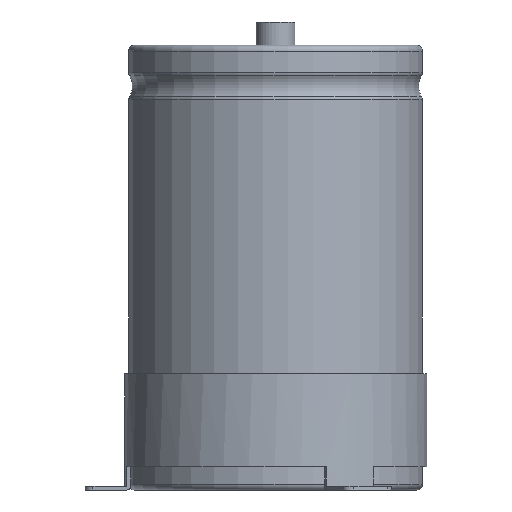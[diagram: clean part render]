
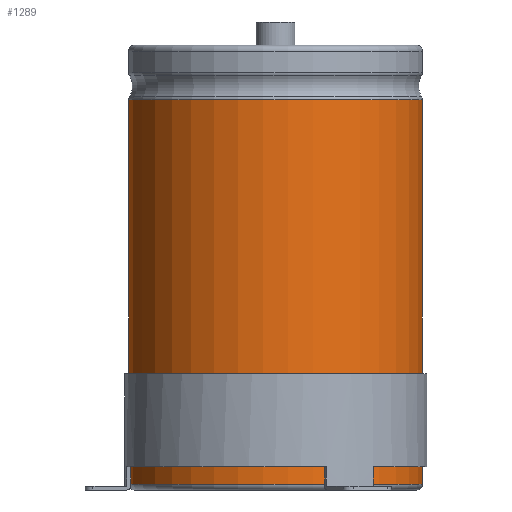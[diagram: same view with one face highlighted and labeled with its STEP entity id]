
A CAD part, front view. The second image highlights one B-rep face of the part: STEP entity #1289.
In plain terms, the highlighted cylindrical face has radius 38.1 mm (diameter 76.2 mm), a partial arc.
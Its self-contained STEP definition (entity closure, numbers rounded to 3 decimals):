
#233=LINE('',#6601,#447);
#234=LINE('',#6605,#448);
#447=VECTOR('',#5224,1.);
#448=VECTOR('',#5227,1.);
#695=FACE_OUTER_BOUND('',#1741,.T.);
#1289=ADVANCED_FACE('',(#695),#1519,.T.);
#1519=CYLINDRICAL_SURFACE('',#4585,38.1);
#1741=EDGE_LOOP('',(#2147,#2148,#2149,#2150));
#2147=ORIENTED_EDGE('',*,*,#3702,.T.);
#2148=ORIENTED_EDGE('',*,*,#3703,.T.);
#2149=ORIENTED_EDGE('',*,*,#3704,.F.);
#2150=ORIENTED_EDGE('',*,*,#3705,.F.);
#3274=VERTEX_POINT('',#6594);
#3276=VERTEX_POINT('',#6598);
#3277=VERTEX_POINT('',#6602);
#3278=VERTEX_POINT('',#6604);
#3702=EDGE_CURVE('',#3274,#3276,#4267,.T.);
#3703=EDGE_CURVE('',#3276,#3277,#233,.T.);
#3704=EDGE_CURVE('',#3278,#3277,#4268,.T.);
#3705=EDGE_CURVE('',#3274,#3278,#234,.T.);
#4267=CIRCLE('',#4582,38.1);
#4268=CIRCLE('',#4584,38.1);
#4582=AXIS2_PLACEMENT_3D('',#6599,#5220,#5221);
#4584=AXIS2_PLACEMENT_3D('',#6603,#5225,#5226);
#4585=AXIS2_PLACEMENT_3D('',#6606,#5228,#5229);
#5220=DIRECTION('',(0.,0.,-1.));
#5221=DIRECTION('',(0.,1.,0.));
#5224=DIRECTION('',(0.,0.,-1.));
#5225=DIRECTION('',(0.,0.,-1.));
#5226=DIRECTION('',(0.,1.,0.));
#5227=DIRECTION('',(0.,0.,-1.));
#5228=DIRECTION('',(0.,0.,-1.));
#5229=DIRECTION('',(0.,1.,0.));
#6594=CARTESIAN_POINT('',(3.983,37.891,100.9));
#6598=CARTESIAN_POINT('',(-3.983,37.891,100.9));
#6599=CARTESIAN_POINT('',(0.,0.,100.9));
#6601=CARTESIAN_POINT('',(-3.983,37.891,100.9));
#6602=CARTESIAN_POINT('',(-3.983,37.891,1.5));
#6603=CARTESIAN_POINT('',(0.,0.,1.5));
#6604=CARTESIAN_POINT('',(3.983,37.891,1.5));
#6605=CARTESIAN_POINT('',(3.983,37.891,100.9));
#6606=CARTESIAN_POINT('',(0.,0.,0.));
